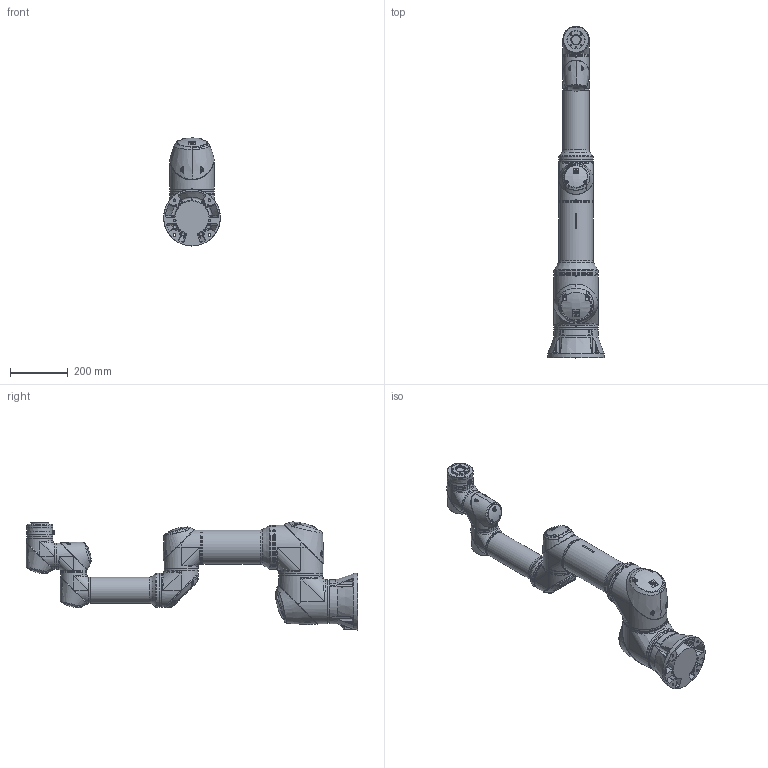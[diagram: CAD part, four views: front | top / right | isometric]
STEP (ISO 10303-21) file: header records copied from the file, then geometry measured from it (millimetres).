
FILE_DESCRIPTION(/* description */ (''),/* implementation_level */ '2;1');
FILE_NAME(/* name */ 'RB16-900E.stp',/* time_stamp */ '2023-04-06T11:36:39+09:00',/* author */ ('ajm08'),/* organization */ (''),/* preprocessor_version */ 'ST-DEVELOPER v19.2',/* originating_system */ 'Autodesk Inventor 2023',/* authorisation */ '');
FILE_SCHEMA (('AUTOMOTIVE_DESIGN { 1 0 10303 214 3 1 1 }'));
Length unit declared in the file: millimetre
Products named in the file (8): RB16-900E; RB16-1300E_BASE; RB16-900E_LINK1; RB16-900E_LINK2; RB16-900E_LINK3; RB16-900E_LINK4; RB16-900E_LINK5; RB16-900E_LINK6
Assembly tree (7 placements, depth 2):
  RB16-900E
    RB16-1300E_BASE
    RB16-900E_LINK1
    RB16-900E_LINK2
    RB16-900E_LINK3
    RB16-900E_LINK4
    RB16-900E_LINK5
    RB16-900E_LINK6
Bounding box: 196.05 x 1144.49 x 372.73 mm (x, y, z)
Volume: 20223929.9 mm3; surface area: 1245611.5 mm2
Topology: 29 solids, 31 shells, 1666 faces, 4201 edges, 2732 vertices
Faces by surface type: bspline 724, plane 568, cylinder 266, cone 90, torus 18
Full cylindrical faces by diameter (mm): 1.5 x12, 2.459 x4, 4 x1, 4.5 x20, 4.917 x4, 5.5 x8, 6 x1, 6.647 x4, 8 x1, 8.5 x3, 9.8 x1, 10 x1, 11.459 x1, 12 x1, 13.233 x12, 13.666 x12, 14 x1, 14.5 x1, 16 x1, 31.5 x1, 63 x1, 80 x4, 82.2 x4, 85 x4, 88.5 x2, 90 x17, 110 x3, 111.5 x3, 112.6 x2, 115 x1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
Entity records: 210984 total; most frequent: CARTESIAN_POINT 174123, ORIENTED_EDGE 8298, DIRECTION 5352, EDGE_CURVE 4149, VERTEX_POINT 2732, AXIS2_PLACEMENT_3D 2016, EDGE_LOOP 1893, B_SPLINE_CURVE_WITH_KNOTS 1763
